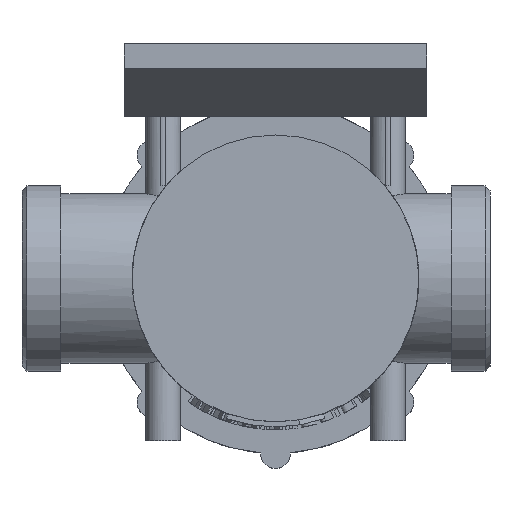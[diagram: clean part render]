
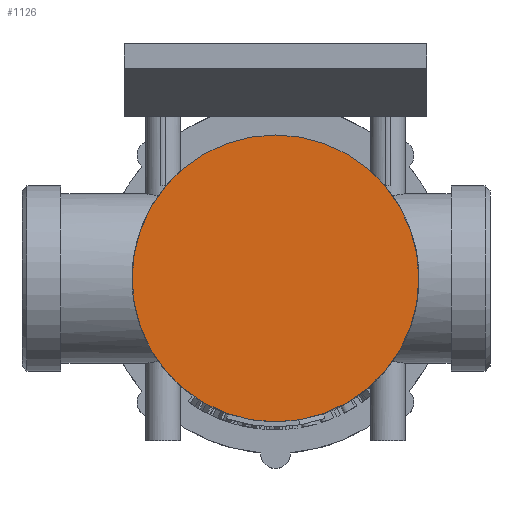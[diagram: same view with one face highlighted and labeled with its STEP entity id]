
A CAD part, top view. The second image highlights one B-rep face of the part: STEP entity #1126.
In plain terms, the highlighted planar face has unit normal (0, 0, 1).
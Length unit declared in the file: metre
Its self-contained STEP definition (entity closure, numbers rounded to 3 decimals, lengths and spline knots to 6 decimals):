
#1126 = ADVANCED_FACE( '', ( #2391 ), #2392, .T. );
#2391 = FACE_OUTER_BOUND( '', #9139, .T. );
#2392 = PLANE( '', #9140 );
#9139 = EDGE_LOOP( '', ( #12723, #12724 ) );
#9140 = AXIS2_PLACEMENT_3D( '', #12725, #12726, #12727 );
#12723 = ORIENTED_EDGE( '', *, *, #14779, .T. );
#12724 = ORIENTED_EDGE( '', *, *, #14780, .T. );
#12725 = CARTESIAN_POINT( '', ( 0.0039, 0., 0.07 ) );
#12726 = DIRECTION( '', ( 0., 0., 1. ) );
#12727 = DIRECTION( '', ( 1., 0., 0. ) );
#14779 = EDGE_CURVE( '', #15411, #16025, #16959, .T. );
#14780 = EDGE_CURVE( '', #16025, #15411, #16960, .T. );
#15411 = VERTEX_POINT( '', #18354 );
#16025 = VERTEX_POINT( '', #19925 );
#16959 = CIRCLE( '', #22144, 0.02875 );
#16960 = CIRCLE( '', #22145, 0.02875 );
#18354 = CARTESIAN_POINT( '', ( 0.03265, 0., 0.07 ) );
#19925 = CARTESIAN_POINT( '', ( -0.02485, 0., 0.07 ) );
#22144 = AXIS2_PLACEMENT_3D( '', #23755, #23756, #23757 );
#22145 = AXIS2_PLACEMENT_3D( '', #23758, #23759, #23760 );
#23755 = CARTESIAN_POINT( '', ( 0.0039, 0., 0.07 ) );
#23756 = DIRECTION( '', ( 0., 0., 1. ) );
#23757 = DIRECTION( '', ( 1., 0., 0. ) );
#23758 = CARTESIAN_POINT( '', ( 0.0039, 0., 0.07 ) );
#23759 = DIRECTION( '', ( 0., 0., 1. ) );
#23760 = DIRECTION( '', ( 1., 0., 0. ) );
